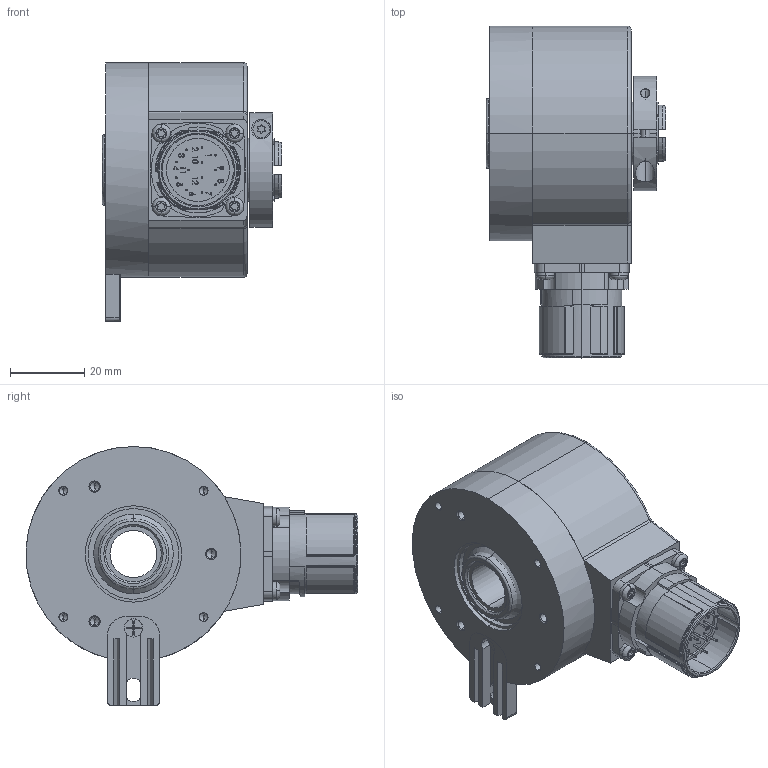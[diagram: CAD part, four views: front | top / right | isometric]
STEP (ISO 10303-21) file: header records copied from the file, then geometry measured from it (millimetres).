
FILE_DESCRIPTION (( 'STEP AP203' ), '1' );
FILE_NAME ('K58I.OXX.XXXXX.XC2153A.6XRC4.step', '2025-12-08T12:07:55', ( '' ), ( '' ), 'SwSTEP 2.0', 'SolidWorks 2021', '' );
FILE_SCHEMA (( 'CONFIG_CONTROL_DESIGN' ));
Length unit declared in the file: millimetre
Products named in the file (1): K58I.OXX.XXXXX.XC2153A.6XRC4
Bounding box: 48.5 x 89.6 x 69.9 mm (x, y, z)
Volume: 114181 mm3; surface area: 38491.9 mm2
Topology: 8 solids, 8 shells, 781 faces, 2028 edges, 1291 vertices
Faces by surface type: cylinder 310, plane 268, bspline 96, cone 54, sphere 34, torus 19
Entity records: 29825 total; most frequent: CARTESIAN_POINT 10969, ORIENTED_EDGE 3968, DIRECTION 3855, EDGE_CURVE 1984, AXIS2_PLACEMENT_3D 1438, VERTEX_POINT 1288, LINE 979, VECTOR 979
